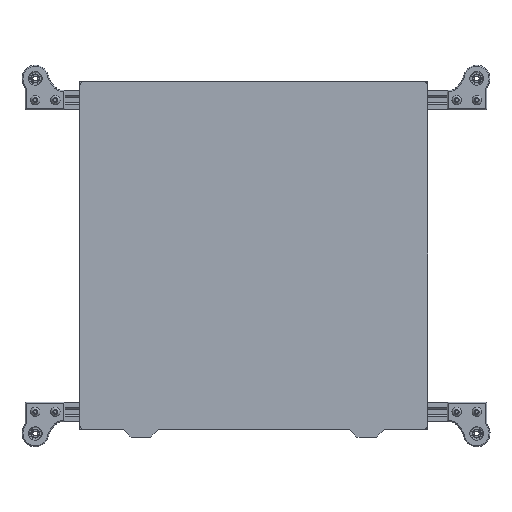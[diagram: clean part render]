
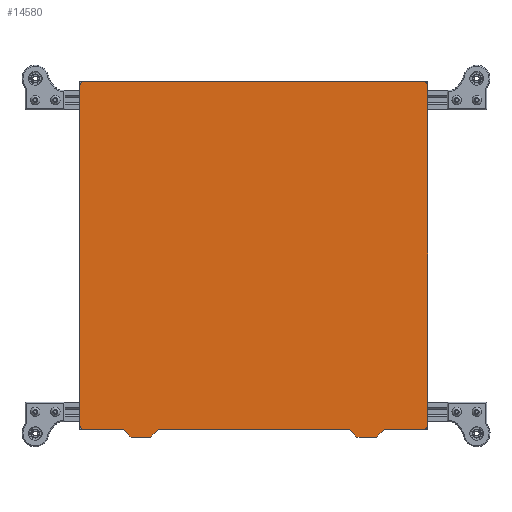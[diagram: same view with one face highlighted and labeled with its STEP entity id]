
A CAD part, top view. The second image highlights one B-rep face of the part: STEP entity #14580.
In plain terms, the highlighted planar face has unit normal (0, 0, 1).
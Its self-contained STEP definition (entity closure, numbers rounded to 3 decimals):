
#696=PLANE('',#16063);
#1422=FACE_OUTER_BOUND('',#2433,.T.);
#2433=EDGE_LOOP('',(#10169,#10170,#10171,#10172,#10173,#10174,#10175,#10176,
#10177,#10178,#10179,#10180,#10181,#10182,#10183,#10184));
#3571=LINE('',#22905,#4745);
#3576=LINE('',#22919,#4750);
#3579=LINE('',#22925,#4753);
#3582=LINE('',#22931,#4756);
#3585=LINE('',#22937,#4759);
#3589=LINE('',#22949,#4763);
#3591=LINE('',#22953,#4765);
#3592=LINE('',#22957,#4766);
#3593=LINE('',#22959,#4767);
#3594=LINE('',#22961,#4768);
#3595=LINE('',#22963,#4769);
#3596=LINE('',#22964,#4770);
#4745=VECTOR('',#17975,10.);
#4750=VECTOR('',#17988,10.);
#4753=VECTOR('',#17993,10.);
#4756=VECTOR('',#17998,10.);
#4759=VECTOR('',#18003,10.);
#4763=VECTOR('',#18015,10.);
#4765=VECTOR('',#18019,10.);
#4766=VECTOR('',#18022,10.);
#4767=VECTOR('',#18023,10.);
#4768=VECTOR('',#18024,10.);
#4769=VECTOR('',#18025,10.);
#4770=VECTOR('',#18026,10.);
#5924=CIRCLE('',#16050,4.);
#5926=CIRCLE('',#16054,4.);
#5928=CIRCLE('',#16061,4.);
#5929=CIRCLE('',#16064,4.);
#6716=VERTEX_POINT('',#22898);
#6717=VERTEX_POINT('',#22900);
#6718=VERTEX_POINT('',#22904);
#6721=VERTEX_POINT('',#22912);
#6723=VERTEX_POINT('',#22918);
#6725=VERTEX_POINT('',#22924);
#6727=VERTEX_POINT('',#22930);
#6729=VERTEX_POINT('',#22936);
#6732=VERTEX_POINT('',#22943);
#6733=VERTEX_POINT('',#22945);
#6734=VERTEX_POINT('',#22952);
#6735=VERTEX_POINT('',#22954);
#6736=VERTEX_POINT('',#22956);
#6737=VERTEX_POINT('',#22958);
#6738=VERTEX_POINT('',#22960);
#6739=VERTEX_POINT('',#22962);
#8007=EDGE_CURVE('',#6716,#6717,#5924,.T.);
#8009=EDGE_CURVE('',#6718,#6717,#3571,.T.);
#8013=EDGE_CURVE('',#6721,#6718,#5926,.T.);
#8016=EDGE_CURVE('',#6723,#6721,#3576,.T.);
#8019=EDGE_CURVE('',#6725,#6723,#3579,.T.);
#8022=EDGE_CURVE('',#6727,#6725,#3582,.T.);
#8025=EDGE_CURVE('',#6729,#6727,#3585,.T.);
#8029=EDGE_CURVE('',#6732,#6733,#5928,.T.);
#8031=EDGE_CURVE('',#6716,#6733,#3589,.F.);
#8033=EDGE_CURVE('',#6732,#6734,#3591,.T.);
#8034=EDGE_CURVE('',#6734,#6735,#5929,.T.);
#8035=EDGE_CURVE('',#6735,#6736,#3592,.T.);
#8036=EDGE_CURVE('',#6736,#6737,#3593,.T.);
#8037=EDGE_CURVE('',#6737,#6738,#3594,.T.);
#8038=EDGE_CURVE('',#6738,#6739,#3595,.T.);
#8039=EDGE_CURVE('',#6739,#6729,#3596,.T.);
#10169=ORIENTED_EDGE('',*,*,#8029,.F.);
#10170=ORIENTED_EDGE('',*,*,#8033,.T.);
#10171=ORIENTED_EDGE('',*,*,#8034,.T.);
#10172=ORIENTED_EDGE('',*,*,#8035,.T.);
#10173=ORIENTED_EDGE('',*,*,#8036,.T.);
#10174=ORIENTED_EDGE('',*,*,#8037,.T.);
#10175=ORIENTED_EDGE('',*,*,#8038,.T.);
#10176=ORIENTED_EDGE('',*,*,#8039,.T.);
#10177=ORIENTED_EDGE('',*,*,#8025,.T.);
#10178=ORIENTED_EDGE('',*,*,#8022,.T.);
#10179=ORIENTED_EDGE('',*,*,#8019,.T.);
#10180=ORIENTED_EDGE('',*,*,#8016,.T.);
#10181=ORIENTED_EDGE('',*,*,#8013,.T.);
#10182=ORIENTED_EDGE('',*,*,#8009,.T.);
#10183=ORIENTED_EDGE('',*,*,#8007,.F.);
#10184=ORIENTED_EDGE('',*,*,#8031,.T.);
#14580=ADVANCED_FACE('',(#1422),#696,.T.);
#16050=AXIS2_PLACEMENT_3D('',#22901,#17970,#17971);
#16054=AXIS2_PLACEMENT_3D('',#22913,#17982,#17983);
#16061=AXIS2_PLACEMENT_3D('',#22946,#18010,#18011);
#16063=AXIS2_PLACEMENT_3D('',#22951,#18017,#18018);
#16064=AXIS2_PLACEMENT_3D('',#22955,#18020,#18021);
#17970=DIRECTION('center_axis',(0.,0.,-1.));
#17971=DIRECTION('ref_axis',(0.707,0.707,0.));
#17975=DIRECTION('',(0.,1.,0.));
#17982=DIRECTION('center_axis',(0.,0.,1.));
#17983=DIRECTION('ref_axis',(0.,-1.,0.));
#17988=DIRECTION('',(1.,0.,0.));
#17993=DIRECTION('',(0.707,0.707,0.));
#17998=DIRECTION('',(1.,0.,0.));
#18003=DIRECTION('',(0.707,-0.707,0.));
#18010=DIRECTION('center_axis',(0.,0.,-1.));
#18011=DIRECTION('ref_axis',(-0.707,0.707,0.));
#18015=DIRECTION('',(1.,0.,0.));
#18017=DIRECTION('center_axis',(0.,0.,1.));
#18018=DIRECTION('ref_axis',(-1.,0.,0.));
#18019=DIRECTION('',(0.,-1.,0.));
#18020=DIRECTION('center_axis',(0.,0.,1.));
#18021=DIRECTION('ref_axis',(-1.,0.,0.));
#18022=DIRECTION('',(1.,0.,0.));
#18023=DIRECTION('',(0.707,-0.707,0.));
#18024=DIRECTION('',(1.,0.,0.));
#18025=DIRECTION('',(0.707,0.707,0.));
#18026=DIRECTION('',(1.,0.,0.));
#22898=CARTESIAN_POINT('',(368.,332.8,-167.585));
#22900=CARTESIAN_POINT('',(372.,328.8,-167.585));
#22901=CARTESIAN_POINT('Origin',(368.,328.8,-167.585));
#22904=CARTESIAN_POINT('',(372.,-17.2,-167.585));
#22905=CARTESIAN_POINT('',(372.,-21.2,-167.585));
#22912=CARTESIAN_POINT('',(368.,-21.2,-167.585));
#22913=CARTESIAN_POINT('Origin',(368.,-17.2,-167.585));
#22918=CARTESIAN_POINT('',(328.,-21.2,-167.585));
#22919=CARTESIAN_POINT('',(118.,-21.2,-167.585));
#22924=CARTESIAN_POINT('',(320.,-29.2,-167.585));
#22925=CARTESIAN_POINT('',(328.,-21.2,-167.585));
#22930=CARTESIAN_POINT('',(300.,-29.2,-167.585));
#22931=CARTESIAN_POINT('',(320.,-29.2,-167.585));
#22936=CARTESIAN_POINT('',(292.,-21.2,-167.585));
#22937=CARTESIAN_POINT('',(300.,-29.2,-167.585));
#22943=CARTESIAN_POINT('',(18.,328.8,-167.585));
#22945=CARTESIAN_POINT('',(22.,332.8,-167.585));
#22946=CARTESIAN_POINT('Origin',(22.,328.8,-167.585));
#22949=CARTESIAN_POINT('',(306.5,332.8,-167.585));
#22951=CARTESIAN_POINT('Origin',(145.,101.8,-167.585));
#22952=CARTESIAN_POINT('',(18.,-17.2,-167.585));
#22953=CARTESIAN_POINT('',(18.,232.8,-167.585));
#22954=CARTESIAN_POINT('',(22.,-21.2,-167.585));
#22955=CARTESIAN_POINT('Origin',(22.,-17.2,-167.585));
#22956=CARTESIAN_POINT('',(62.,-21.2,-167.585));
#22957=CARTESIAN_POINT('',(18.,-21.2,-167.585));
#22958=CARTESIAN_POINT('',(70.,-29.2,-167.585));
#22959=CARTESIAN_POINT('',(62.,-21.2,-167.585));
#22960=CARTESIAN_POINT('',(90.,-29.2,-167.585));
#22961=CARTESIAN_POINT('',(70.,-29.2,-167.585));
#22962=CARTESIAN_POINT('',(98.,-21.2,-167.585));
#22963=CARTESIAN_POINT('',(90.,-29.2,-167.585));
#22964=CARTESIAN_POINT('',(118.,-21.2,-167.585));
